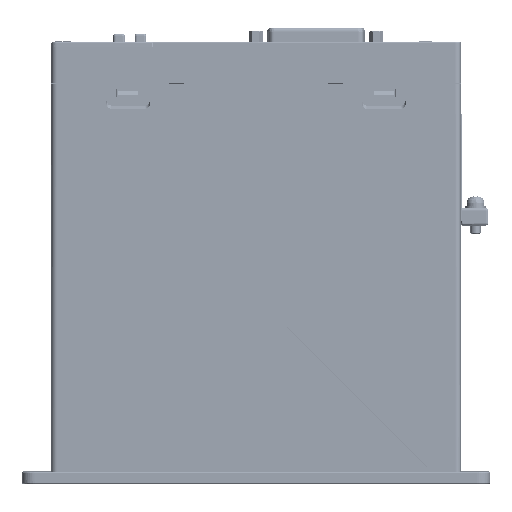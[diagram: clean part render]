
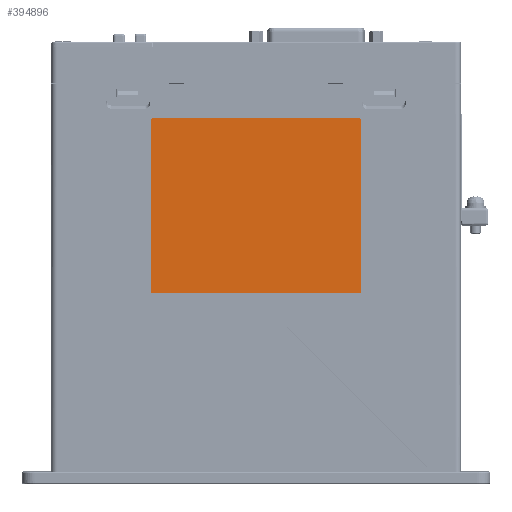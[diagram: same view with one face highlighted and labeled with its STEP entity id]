
A CAD part, top view. The second image highlights one B-rep face of the part: STEP entity #394896.
In plain terms, the highlighted planar face has unit normal (0, 0, 1).
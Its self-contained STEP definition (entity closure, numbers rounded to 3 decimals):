
#382019=CARTESIAN_POINT('',(-40.5,75.1,24.65));
#382020=DIRECTION('',(0.,0.,-1.));
#382021=DIRECTION('',(0.,-1.,0.));
#382022=AXIS2_PLACEMENT_3D('',#382019,#382020,#382021);
#382024=DIRECTION('',(0.,1.,0.));
#382025=VECTOR('',#382024,67.4);
#382026=CARTESIAN_POINT('',(-41.,75.1,24.65));
#382027=LINE('',#382026,#382025);
#382028=CARTESIAN_POINT('',(-40.5,142.5,24.65));
#382029=DIRECTION('',(0.,0.,-1.));
#382030=DIRECTION('',(-1.,0.,0.));
#382031=AXIS2_PLACEMENT_3D('',#382028,#382029,#382030);
#382033=DIRECTION('',(1.,0.,0.));
#382034=VECTOR('',#382033,81.);
#382035=CARTESIAN_POINT('',(-40.5,143.,24.65));
#382036=LINE('',#382035,#382034);
#382037=CARTESIAN_POINT('',(40.5,142.5,24.65));
#382038=DIRECTION('',(0.,0.,-1.));
#382039=DIRECTION('',(0.,1.,0.));
#382040=AXIS2_PLACEMENT_3D('',#382037,#382038,#382039);
#382042=DIRECTION('',(0.,-1.,0.));
#382043=VECTOR('',#382042,67.4);
#382044=CARTESIAN_POINT('',(41.,142.5,24.65));
#382045=LINE('',#382044,#382043);
#382046=CARTESIAN_POINT('',(40.5,75.1,24.65));
#382047=DIRECTION('',(0.,0.,-1.));
#382048=DIRECTION('',(1.,0.,0.));
#382049=AXIS2_PLACEMENT_3D('',#382046,#382047,#382048);
#382051=DIRECTION('',(-1.,0.,0.));
#382052=VECTOR('',#382051,81.);
#382053=CARTESIAN_POINT('',(40.5,74.6,24.65));
#382054=LINE('',#382053,#382052);
#389555=CARTESIAN_POINT('',(-41.,75.1,24.65));
#389556=VERTEX_POINT('',#389555);
#389557=CARTESIAN_POINT('',(-41.,142.5,24.65));
#389558=VERTEX_POINT('',#389557);
#389559=CARTESIAN_POINT('',(-40.5,74.6,24.65));
#389560=VERTEX_POINT('',#389559);
#389561=CARTESIAN_POINT('',(-40.5,143.,24.65));
#389562=VERTEX_POINT('',#389561);
#389563=CARTESIAN_POINT('',(40.5,143.,24.65));
#389564=VERTEX_POINT('',#389563);
#389565=CARTESIAN_POINT('',(41.,142.5,24.65));
#389566=VERTEX_POINT('',#389565);
#389567=CARTESIAN_POINT('',(41.,75.1,24.65));
#389568=VERTEX_POINT('',#389567);
#389569=CARTESIAN_POINT('',(40.5,74.6,24.65));
#389570=VERTEX_POINT('',#389569);
#394875=CARTESIAN_POINT('',(0.,5.,24.65));
#394876=DIRECTION('',(0.,0.,1.));
#394877=DIRECTION('',(0.,1.,0.));
#394878=AXIS2_PLACEMENT_3D('',#394875,#394876,#394877);
#394879=PLANE('',#394878);
#394880=ORIENTED_EDGE('',*,*,#394859,.T.);
#394881=ORIENTED_EDGE('',*,*,#394842,.T.);
#394883=ORIENTED_EDGE('',*,*,#394882,.T.);
#394885=ORIENTED_EDGE('',*,*,#394884,.T.);
#394887=ORIENTED_EDGE('',*,*,#394886,.T.);
#394889=ORIENTED_EDGE('',*,*,#394888,.T.);
#394891=ORIENTED_EDGE('',*,*,#394890,.T.);
#394893=ORIENTED_EDGE('',*,*,#394892,.T.);
#394894=EDGE_LOOP('',(#394880,#394881,#394883,#394885,#394887,#394889,#394891,
#394893));
#394895=FACE_OUTER_BOUND('',#394894,.F.);
#382023=CIRCLE('',#382022,0.5);
#382032=CIRCLE('',#382031,0.5);
#382041=CIRCLE('',#382040,0.5);
#382050=CIRCLE('',#382049,0.5);
#394842=EDGE_CURVE('',#389556,#389558,#382027,.T.);
#394859=EDGE_CURVE('',#389560,#389556,#382023,.T.);
#394882=EDGE_CURVE('',#389558,#389562,#382032,.T.);
#394884=EDGE_CURVE('',#389562,#389564,#382036,.T.);
#394886=EDGE_CURVE('',#389564,#389566,#382041,.T.);
#394888=EDGE_CURVE('',#389566,#389568,#382045,.T.);
#394890=EDGE_CURVE('',#389568,#389570,#382050,.T.);
#394892=EDGE_CURVE('',#389570,#389560,#382054,.T.);
#394896=ADVANCED_FACE('',(#394895),#394879,.T.);
